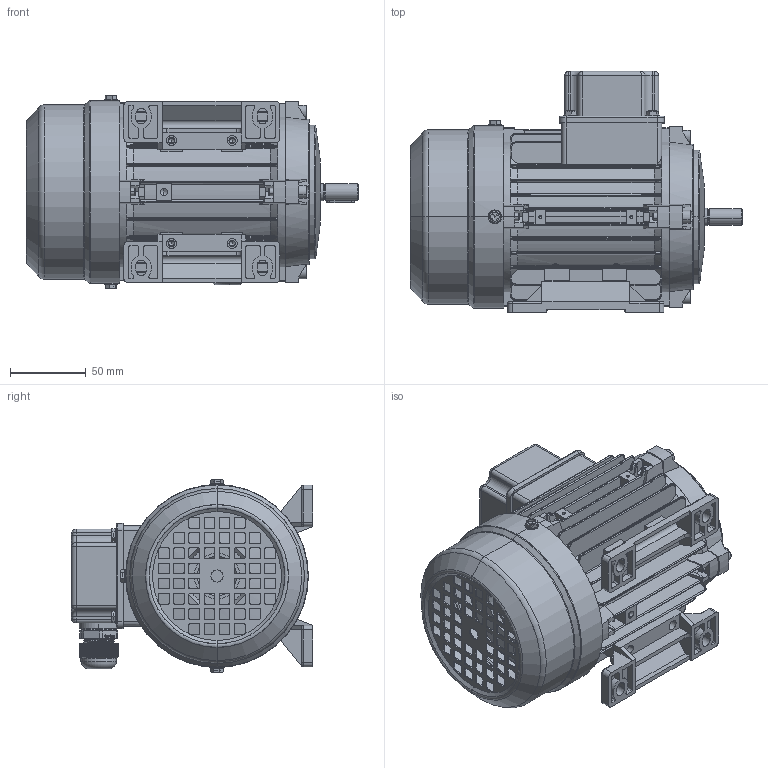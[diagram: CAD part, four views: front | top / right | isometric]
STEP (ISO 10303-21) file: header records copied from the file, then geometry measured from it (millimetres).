
FILE_DESCRIPTION (( 'STEP AP203' ), '1' );
FILE_NAME ('MSL63 assembly B3.STEP', '2017-11-26T09:34:27', ( 'user' ), ( 'china' ), 'SwSTEP 2.0', 'SolidWorks 2016', '' );
FILE_SCHEMA (( 'CONFIG_CONTROL_DESIGN' ));
Length unit declared in the file: millimetre
Products named in the file (14): M63傷裔B3_Post; M63瑞欶; M63-Shaft drive end_S; MSL63-儂褲; MSL63 assembly B3; M20 cable gland; M63菁褐; GB-T 5780-2000 M5_020; MS63 綴裔瑞欶郪磁; GB-T 29.2-1988 M4鞠褒坋趼湍菜_05; MSL63-71堤盄碟蚾饜; MSL63-71堤盄碟; M63傷裔B3_Drive; GB-T 70.1-2000 M5_20
Assembly tree (26 placements, depth 3):
  MSL63 assembly B3
    MSL63-儂褲
    MS63 綴裔瑞欶郪磁
      M63傷裔B3_Post
      M63瑞欶
      GB-T 29.2-1988 M4鞠褒坋趼湍菜_05  x3
    MSL63-71堤盄碟蚾饜
      MSL63-71堤盄碟
      GB-T 29.2-1988 M4鞠褒坋趼湍菜_05  x4
      M20 cable gland
    M63菁褐  x2
    M63-Shaft drive end_S
    M63傷裔B3_Drive
    GB-T 70.1-2000 M5_20  x4
    GB-T 5780-2000 M5_020  x4
Bounding box: 219 x 159 x 127.4 mm (x, y, z)
Volume: 377906 mm3; surface area: 328787.6 mm2
Topology: 24 solids, 24 shells, 3116 faces, 8103 edges, 5057 vertices
Faces by surface type: plane 1369, cylinder 1150, cone 220, bspline 204, torus 173
Entity records: 101662 total; most frequent: CARTESIAN_POINT 37116, ORIENTED_EDGE 13730, DIRECTION 12522, EDGE_CURVE 6865, AXIS2_PLACEMENT_3D 4527, VERTEX_POINT 4368, VECTOR 3468, LINE 3468
